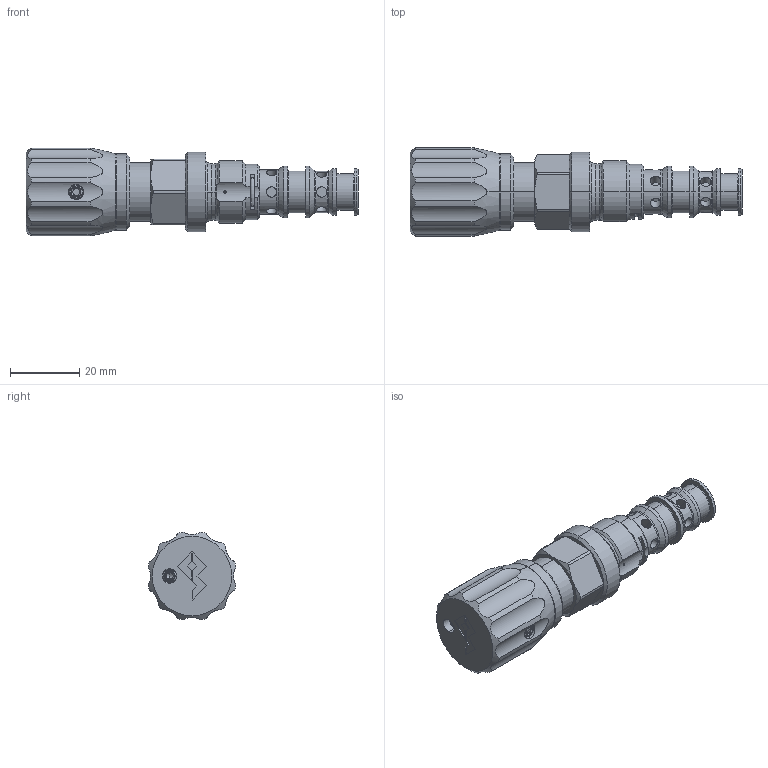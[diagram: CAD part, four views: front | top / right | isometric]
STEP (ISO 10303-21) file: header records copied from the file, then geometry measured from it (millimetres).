
FILE_DESCRIPTION (( 'STEP AP214' ), '1' );
FILE_NAME ('MVDPM18.STEP', '2021-08-27T08:38:48', ( '' ), ( '' ), 'SwSTEP 2.0', 'SolidWorks 2020', '' );
FILE_SCHEMA (( 'AUTOMOTIVE_DESIGN' ));
Length unit declared in the file: millimetre
Products named in the file (1): MVDPM18
Bounding box: 96.1 x 25.47 x 25.47 mm (x, y, z)
Volume: 27380.6 mm3; surface area: 7862.8 mm2
Topology: 1 solids, 1 shells, 288 faces, 672 edges, 413 vertices
Faces by surface type: cylinder 116, plane 101, cone 48, torus 23
Entity records: 12814 total; most frequent: CARTESIAN_POINT 3092, DIRECTION 1387, ORIENTED_EDGE 1340, EDGE_CURVE 670, AXIS2_PLACEMENT_3D 554, VERTEX_POINT 413, EDGE_LOOP 317, UNCERTAINTY_MEASURE_WITH_UNIT 291
